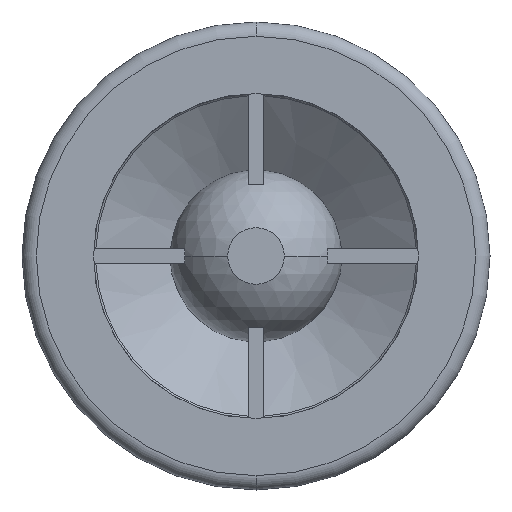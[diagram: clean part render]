
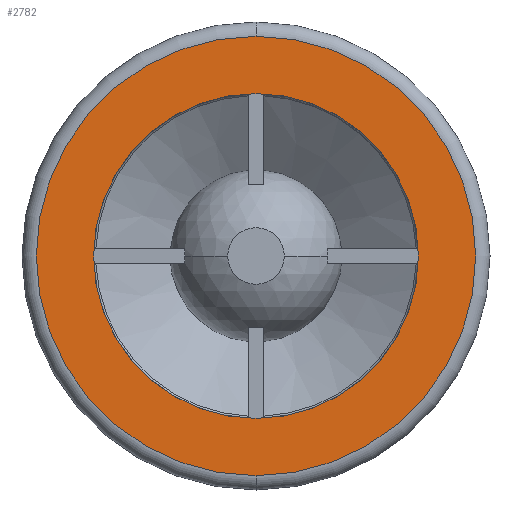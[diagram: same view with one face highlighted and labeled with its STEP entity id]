
A CAD part, front view. The second image highlights one B-rep face of the part: STEP entity #2782.
In plain terms, the highlighted planar face has unit normal (0, -1, 0).
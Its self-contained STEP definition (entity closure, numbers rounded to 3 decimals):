
#155 = EDGE_CURVE ( 'NONE', #2874, #2880, #2522, .T. ) ;
#1477 = DIRECTION ( 'NONE',  ( 0., 0., 1. ) ) ;
#1478 = DIRECTION ( 'NONE',  ( 0., 1., 0. ) ) ;
#1479 = CARTESIAN_POINT ( 'NONE',  ( -17., 0., 0. ) ) ;
#1481 = AXIS2_PLACEMENT_3D ( 'NONE', #1479, #1478, #1477 ) ;
#1482 = PLANE ( 'NONE',  #1481 ) ;
#1483 = FACE_BOUND ( 'NONE', #2771, .T. ) ;
#1484 = FACE_OUTER_BOUND ( 'NONE', #2780, .T. ) ;
#1485 = DIRECTION ( 'NONE',  ( 0., 0., 1. ) ) ;
#1486 = DIRECTION ( 'NONE',  ( 0., -1., 0. ) ) ;
#1487 = CARTESIAN_POINT ( 'NONE',  ( 0., 0., 0. ) ) ;
#1488 = AXIS2_PLACEMENT_3D ( 'NONE', #1487, #1486, #1485 ) ;
#1492 = CIRCLE ( 'NONE', #1488, 23. ) ;
#1590 = DIRECTION ( 'NONE',  ( 0., 0., -1. ) ) ;
#1591 = DIRECTION ( 'NONE',  ( 0., -1., 0. ) ) ;
#1592 = CARTESIAN_POINT ( 'NONE',  ( 0., 0., 0. ) ) ;
#1593 = AXIS2_PLACEMENT_3D ( 'NONE', #1592, #1591, #1590 ) ;
#1594 = CIRCLE ( 'NONE', #1593, 17. ) ;
#1638 = CARTESIAN_POINT ( 'NONE',  ( 0., 0., 17. ) ) ;
#1648 = CARTESIAN_POINT ( 'NONE',  ( 0., 0., -17. ) ) ;
#1650 = DIRECTION ( 'NONE',  ( 0., 0., 1. ) ) ;
#1651 = DIRECTION ( 'NONE',  ( 0., -1., 0. ) ) ;
#1652 = CARTESIAN_POINT ( 'NONE',  ( 0., 0., 0. ) ) ;
#1653 = AXIS2_PLACEMENT_3D ( 'NONE', #1652, #1651, #1650 ) ;
#1654 = CIRCLE ( 'NONE', #1653, 23. ) ;
#1661 = CARTESIAN_POINT ( 'NONE',  ( 0., 0., -23. ) ) ;
#1662 = CARTESIAN_POINT ( 'NONE',  ( 0., 0., 23. ) ) ;
#2520 = AXIS2_PLACEMENT_3D ( 'NONE', #2523, #2521, #2524 ) ;
#2521 = DIRECTION ( 'NONE',  ( 0., -1., 0. ) ) ;
#2522 = CIRCLE ( 'NONE', #2520, 17. ) ;
#2523 = CARTESIAN_POINT ( 'NONE',  ( 0., 0., 0. ) ) ;
#2524 = DIRECTION ( 'NONE',  ( 0., 0., -1. ) ) ;
#2771 = EDGE_LOOP ( 'NONE', ( #2773, #2775 ) ) ;
#2773 = ORIENTED_EDGE ( 'NONE', *, *, #155, .F. ) ;
#2775 = ORIENTED_EDGE ( 'NONE', *, *, #2869, .F. ) ;
#2779 = EDGE_CURVE ( 'NONE', #2904, #2905, #1492, .T. ) ;
#2780 = EDGE_LOOP ( 'NONE', ( #2783, #2785 ) ) ;
#2782 = ADVANCED_FACE ( 'NONE', ( #1484, #1483 ), #1482, .F. ) ;
#2783 = ORIENTED_EDGE ( 'NONE', *, *, #2779, .T. ) ;
#2785 = ORIENTED_EDGE ( 'NONE', *, *, #2911, .T. ) ;
#2869 = EDGE_CURVE ( 'NONE', #2880, #2874, #1594, .T. ) ;
#2874 = VERTEX_POINT ( 'NONE', #1648 ) ;
#2880 = VERTEX_POINT ( 'NONE', #1638 ) ;
#2904 = VERTEX_POINT ( 'NONE', #1662 ) ;
#2905 = VERTEX_POINT ( 'NONE', #1661 ) ;
#2911 = EDGE_CURVE ( 'NONE', #2905, #2904, #1654, .T. ) ;
